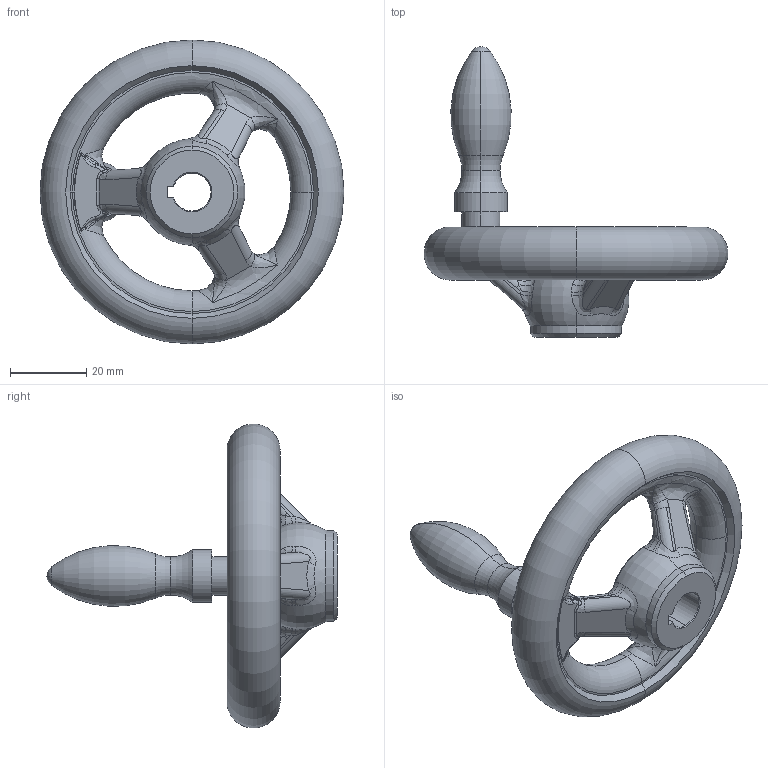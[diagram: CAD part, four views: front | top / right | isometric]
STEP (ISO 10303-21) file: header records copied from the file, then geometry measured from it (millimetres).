
FILE_DESCRIPTION (( 'STEP AP203' ), '1' );
FILE_NAME ('din950_d3_80x10.step', '2010-03-23T10:12:08', ( '_' ), ( '_' ), 'SwSTEP 2.0', 'SolidWorks 2010', '' );
FILE_SCHEMA (( 'CONFIG_CONTROL_DESIGN' ));
Length unit declared in the file: millimetre
Products named in the file (1): din950_d3_80x10
Bounding box: 79.99 x 76.5 x 79.99 mm (x, y, z)
Volume: 46930.2 mm3; surface area: 14763.6 mm2
Topology: 1 solids, 1 shells, 207 faces, 510 edges, 288 vertices
Faces by surface type: bspline 109, torus 33, cylinder 28, plane 21, cone 14, sphere 2
Entity records: 23708 total; most frequent: CARTESIAN_POINT 19419, ORIENTED_EDGE 996, DIRECTION 711, EDGE_CURVE 498, AXIS2_PLACEMENT_3D 326, VERTEX_POINT 288, CIRCLE 227, EDGE_LOOP 210
